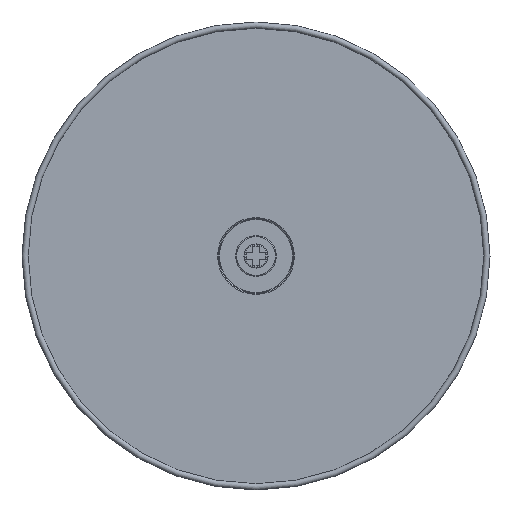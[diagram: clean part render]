
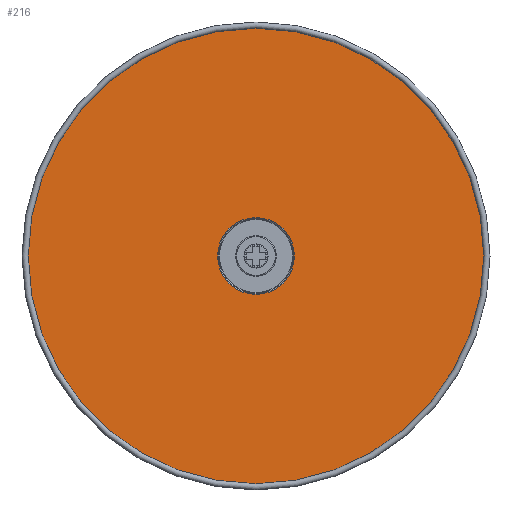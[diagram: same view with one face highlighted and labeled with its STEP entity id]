
A CAD part, left-side view. The second image highlights one B-rep face of the part: STEP entity #216.
In plain terms, the highlighted planar face has unit normal (-1, 0, 0) as drawn and (0, 1, 0) by its records, which use the part's own axes.
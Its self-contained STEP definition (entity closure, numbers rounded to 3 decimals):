
#18 = CARTESIAN_POINT ( 'NONE',  ( -30.982, 44.451, 77. ) ) ;
#25 = FACE_OUTER_BOUND ( 'NONE', #403, .T. ) ;
#117 = ORIENTED_EDGE ( 'NONE', *, *, #679, .F. ) ;
#122 = ORIENTED_EDGE ( 'NONE', *, *, #1736, .T. ) ;
#216 = ADVANCED_FACE ( 'NONE', ( #1589, #25 ), #2370, .T. ) ;
#387 = DIRECTION ( 'NONE',  ( 0., 0., 1. ) ) ;
#403 = EDGE_LOOP ( 'NONE', ( #117 ) ) ;
#657 = CARTESIAN_POINT ( 'NONE',  ( -30.982, 44.451, 150. ) ) ;
#679 = EDGE_CURVE ( 'NONE', #1194, #1194, #1477, .T. ) ;
#696 = CIRCLE ( 'NONE', #854, 12.3 ) ;
#854 = AXIS2_PLACEMENT_3D ( 'NONE', #657, #1226, #2017 ) ;
#1039 = DIRECTION ( 'NONE',  ( 0., -1., 0. ) ) ;
#1068 = DIRECTION ( 'NONE',  ( 0., 0., -1. ) ) ;
#1090 = AXIS2_PLACEMENT_3D ( 'NONE', #1188, #1577, #387 ) ;
#1188 = CARTESIAN_POINT ( 'NONE',  ( 42.018, 44.451, 150. ) ) ;
#1194 = VERTEX_POINT ( 'NONE', #18 ) ;
#1226 = DIRECTION ( 'NONE',  ( 0., -1., 0. ) ) ;
#1464 = CARTESIAN_POINT ( 'NONE',  ( -30.982, 44.451, 150. ) ) ;
#1477 = CIRCLE ( 'NONE', #1942, 73. ) ;
#1577 = DIRECTION ( 'NONE',  ( 0., 1., 0. ) ) ;
#1589 = FACE_BOUND ( 'NONE', #2249, .T. ) ;
#1657 = CARTESIAN_POINT ( 'NONE',  ( -30.982, 44.451, 137.7 ) ) ;
#1736 = EDGE_CURVE ( 'NONE', #1856, #1856, #696, .T. ) ;
#1856 = VERTEX_POINT ( 'NONE', #1657 ) ;
#1942 = AXIS2_PLACEMENT_3D ( 'NONE', #1464, #1039, #1068 ) ;
#2017 = DIRECTION ( 'NONE',  ( 0., 0., -1. ) ) ;
#2249 = EDGE_LOOP ( 'NONE', ( #122 ) ) ;
#2370 = PLANE ( 'NONE',  #1090 ) ;
